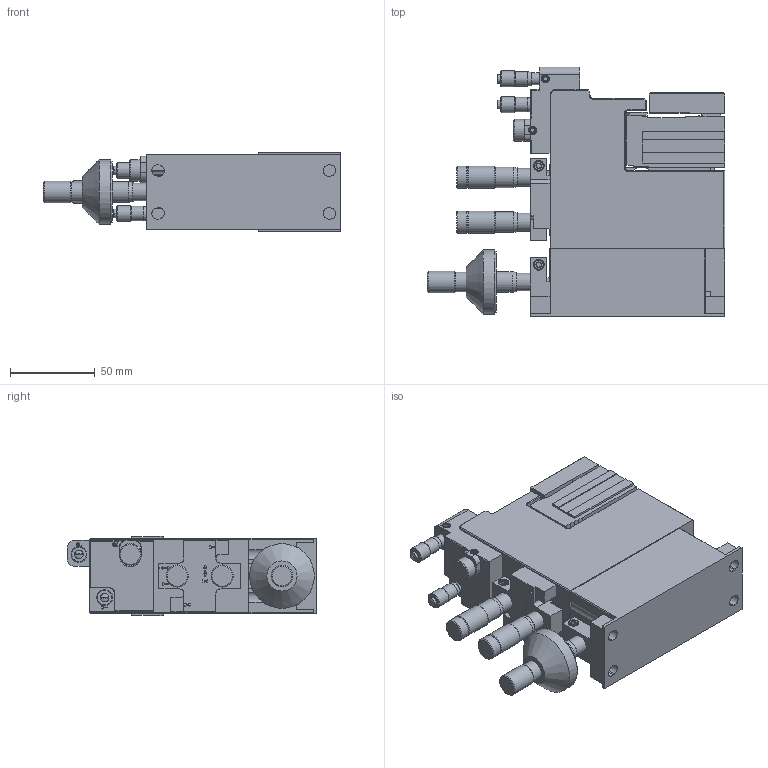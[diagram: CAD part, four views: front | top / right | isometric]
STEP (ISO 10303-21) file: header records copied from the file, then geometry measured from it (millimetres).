
FILE_DESCRIPTION((''),'1');
FILE_NAME('P1-L-H-I','2021-03-23T15:29:06',('JD'),('Luminos'),'Spatial Interop R20 SP1','Kubotek KeyCreator V9.0.3 (16864)',' ');
FILE_SCHEMA(('automotive_design'));
Length unit declared in the file: inch
Products named in the file (2): 1; 2
Bounding box: 175.18 x 147.07 x 46.99 mm (x, y, z)
Volume: 657861.2 mm3; surface area: 90385.7 mm2
Topology: 2 solids, 3 shells, 868 faces, 2045 edges, 1280 vertices
Faces by surface type: plane 526, cylinder 171, cone 167, sphere 4
Full cylindrical faces by diameter (mm): 2.05 x25, 4.039 x3, 4.648 x8, 4.762 x6, 4.775 x2, 5 x3, 5.08 x2, 5.74 x4, 6.35 x3, 7.01 x2, 7.144 x1, 8.509 x2, 9.322 x2, 9.5 x2, 9.525 x1, 10.49 x3, 11.684 x1, 12.116 x3, 12.7 x2, 13.081 x4, 38.1 x1
Entity records: 43287 total; most frequent: CARTESIAN_POINT 4398, DIRECTION 4014, ORIENTED_EDGE 3694, PRESENTATION_STYLE_ASSIGNMENT 3587, COLOUR_RGB 3587, STYLED_ITEM 2717, CURVE_STYLE 2717, DRAUGHTING_PRE_DEFINED_CURVE_FONT 2717
